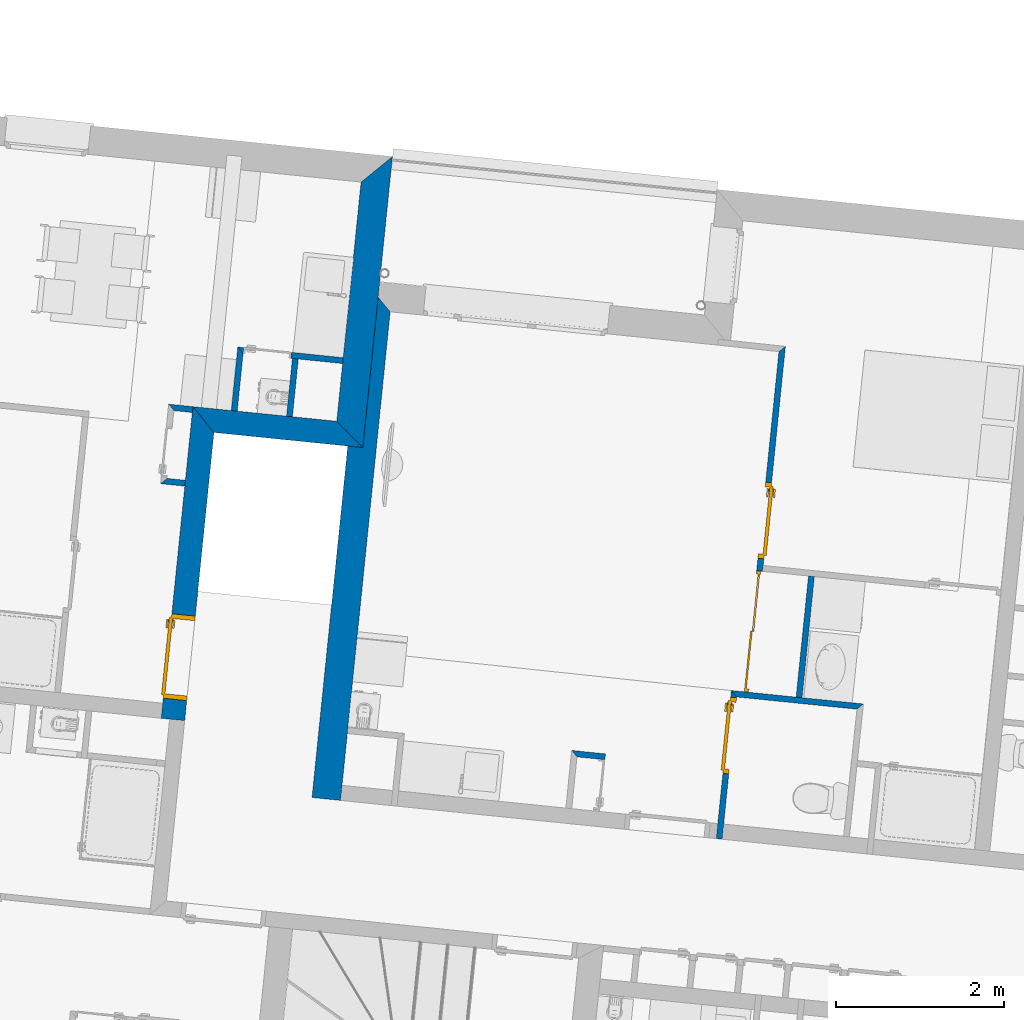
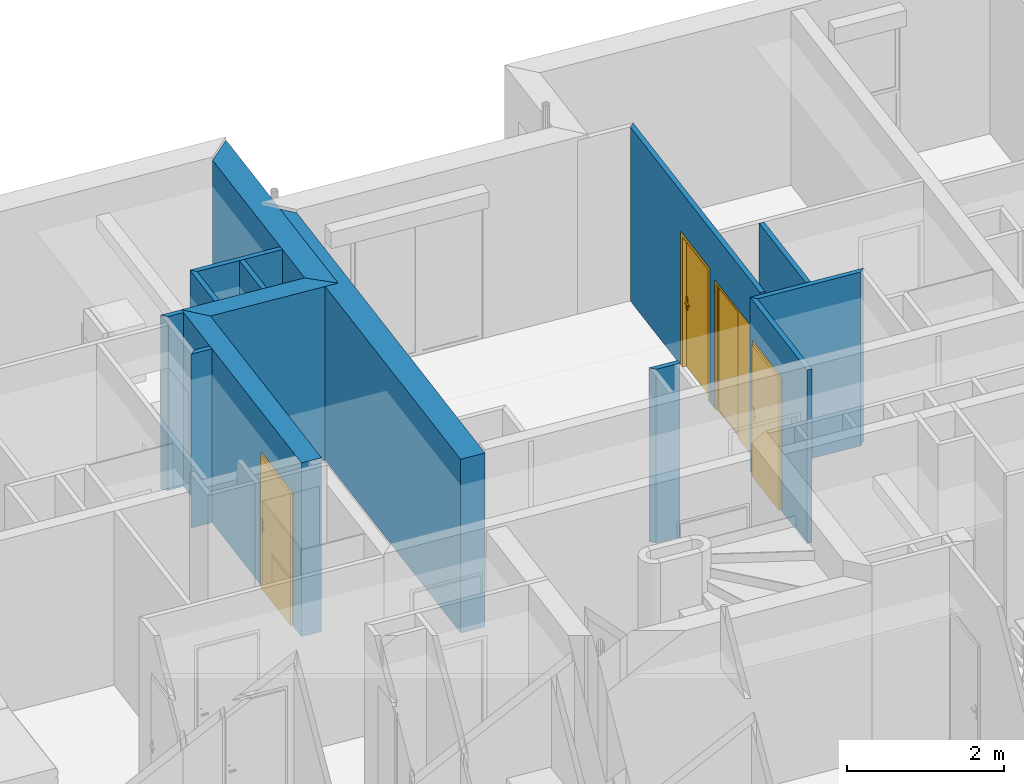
# One storey, part 65 of 164: 14 walls, 4 doors, 5 openings.
"""IFC2X3 building model written with IfcOpenShell, lengths in millimetres."""

from ifc_helpers import new_model, entity, si_unit, converted_unit, derived_unit, money_unit, direction, frame, origin_with_axes, origin_2d_with_axis, place, context, subcontext, project, spatial, polyline, rectangle, outline, extrude, open_shell, faceted_brep, surface_model, source, transform, mapped, material, layer, layer_set, layer_usage, type_object, element, fill, save


model = new_model("IFC2X3")

# Units and contexts
model_context = context("Model", 3, precision=0.01, world=origin_with_axes(), true_north=direction((0.0, 1.0)))
body_context = subcontext(model_context, "Body", "Model", "MODEL_VIEW")
ifc_project = project(units=[si_unit("LENGTHUNIT", "METRE", prefix="MILLI"), si_unit("AREAUNIT", "SQUARE_METRE"), si_unit("VOLUMEUNIT", "CUBIC_METRE"), converted_unit("PLANEANGLEUNIT", "DEGREE", entity("IfcPlaneAngleMeasure", 0.0174532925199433), si_unit("PLANEANGLEUNIT", "RADIAN"), dimensions=[0, 0, 0, 0, 0, 0, 0]), money_unit("USD"), converted_unit("TIMEUNIT", "Year", entity("IfcTimeMeasure", 31557600.0), si_unit("TIMEUNIT", "SECOND"), dimensions=[0, 0, 1, 0, 0, 0, 0]), si_unit("MASSUNIT", "GRAM", prefix="KILO"), si_unit("THERMODYNAMICTEMPERATUREUNIT", "DEGREE_CELSIUS"), si_unit("LUMINOUSINTENSITYUNIT", "LUMEN"), si_unit("ENERGYUNIT", "JOULE", prefix="MEGA"), derived_unit("THERMALCONDUCTANCEUNIT", [(si_unit("POWERUNIT", "WATT"), 1), (si_unit("LENGTHUNIT", "METRE"), -1), (si_unit("THERMODYNAMICTEMPERATUREUNIT", "KELVIN"), -1)]), derived_unit("SPECIFICHEATCAPACITYUNIT", [(si_unit("ENERGYUNIT", "JOULE"), 1), (si_unit("MASSUNIT", "GRAM", prefix="KILO"), -1), (si_unit("THERMODYNAMICTEMPERATUREUNIT", "KELVIN"), -1)]), derived_unit("MASSDENSITYUNIT", [(si_unit("MASSUNIT", "GRAM", prefix="KILO"), 1), (si_unit("VOLUMEUNIT", "CUBIC_METRE"), -1)])], contexts=[model_context])

# Site, building, storey
site_placement = place(None, origin_with_axes())
site = spatial("IfcSite", under=ifc_project, at=site_placement, Name="Site", CompositionType="ELEMENT")
building_placement = place(site_placement, origin_with_axes())
building = spatial("IfcBuilding", under=site, at=building_placement, Name="Bâtiment", CompositionType="ELEMENT")
storey_placement = place(building_placement, frame((0.0, 0.0, 5750.0), z_axis=(0.0, 0.0, 1.0), x_axis=(1.0, 0.0, 0.0)))
storey = spatial("IfcBuildingStorey", under=building, at=storey_placement, Name="Etage1", CompositionType="ELEMENT", Elevation=5750.0)

# Walls
ifc_material_1 = material(Name="Hachure solide 268963992")
ifc_layer_1 = layer(ifc_material_1, 70.0, ventilated="UNKNOWN")
ifc_layer_set_1 = layer_set([ifc_layer_1], Name="Cloison 70 0826278243")
ifc_layer_usage_1 = layer_usage(ifc_layer_set_1, "AXIS2", "NEGATIVE", 0.0)
wall_type_1 = type_object("IfcWallType", Name="Cloison 70 0826278243 70", PredefinedType="NOTDEFINED")
wall_1_placement = place(storey_placement, frame((2229040.57666053, -612021.5629488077, 0.0), z_axis=(0.0, 0.0, 1.0), x_axis=(-0.9949300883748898, 0.1005689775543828, 0.0)))
element("IfcWallStandardCase", 1, at=wall_1_placement, inside=storey, type_object=wall_type_1, material=ifc_layer_usage_1, Name="Mur-153", context=body_context, shape_type="SweptSolid", body=[
    extrude(outline(polyline([(0.0, -70.00000000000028), (404.5342167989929, -70.00000000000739), (334.5342167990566, 0.0), (0.0, 0.0), (0.0, -70.00000000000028)])), origin_with_axes(), (0.0, 0.0, 1.0), 2700.0),
])
ifc_layer_usage_2 = layer_usage(ifc_layer_set_1, "AXIS2", "NEGATIVE", 70.0)
wall_2_placement = place(storey_placement, frame((2224673.84594677, -607112.2829584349, 0.0), z_axis=(0.0, 0.0, 1.0), x_axis=(-0.1011032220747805, -0.9948759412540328, 0.0)))
element("IfcWallStandardCase", 2, at=wall_2_placement, inside=storey, type_object=wall_type_1, material=ifc_layer_usage_2, Name="Mur-149", context=body_context, shape_type="SweptSolid", body=[
    extrude(outline(polyline([(4.91690599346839e-06, 0.0), (760.3379466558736, 0.0), (760.337946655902, 70.00000000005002), (70.00000491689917, 70.00000000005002), (4.91690599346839e-06, 0.0)])), origin_with_axes(), (0.0, 0.0, 1.0), 2700.0),
])
ifc_layer_usage_3 = layer_usage(ifc_layer_set_1, "AXIS2", "NEGATIVE", 70.0)
wall_3_placement = place(storey_placement, frame((2225330.464041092, -607179.0110872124, 0.0), z_axis=(0.0, 0.0, 1.0), x_axis=(-0.1011032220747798, -0.9948759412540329, 0.0)))
element("IfcWallStandardCase", 3, at=wall_3_placement, inside=storey, type_object=wall_type_1, material=ifc_layer_usage_3, Name="Mur-149", context=body_context, shape_type="SweptSolid", body=[
    extrude(outline(polyline([(69.99999999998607, 0.0), (760.3379417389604, 0.0), (760.3379417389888, 70.00000000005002), (70.0000000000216, 70.00000000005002), (69.99999999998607, 0.0)])), origin_with_axes(), (0.0, 0.0, 1.0), 2700.0),
])

# Wall, opening
ifc_layer_usage_4 = layer_usage(ifc_layer_set_1, "AXIS2", "NEGATIVE", 70.0)
wall_4_placement = place(storey_placement, frame((2226265.983473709, -607274.0822664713, 0.0), z_axis=(0.0, 0.0, 1.0), x_axis=(-0.9948759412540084, 0.1011032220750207, 0.0)))
wall_4 = element("IfcWallStandardCase", 4, at=wall_4_placement, inside=storey, type_object=wall_type_1, material=ifc_layer_usage_4, Name="Mur-149", context=body_context, shape_type="SweptSolid", body=[
    extrude(outline(polyline([(339.9999999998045, 0.0), (1600.337752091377, 0.0), (1530.337752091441, 69.99999999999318), (340.0000069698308, 70.00000000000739), (339.9999999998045, 0.0)])), origin_with_axes(), (0.0, 0.0, 1.0), 2700.0),
])
opening_1_placement = place(wall_4_placement, frame((1245.337752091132, 0.0, 0.0), z_axis=(0.0, 0.0, 1.0), x_axis=(1.0, 0.0, 0.0)))
element("IfcOpeningElement", 5, at=opening_1_placement, cuts=wall_4, Name="Por-274", context=body_context, shape_type="SweptSolid", body=[
    extrude(rectangle(XDim=570.0, YDim=2050.0, at=origin_2d_with_axis()), frame((1.13686837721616e-10, 69.99999999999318, 1025.0), z_axis=(0.0, -1.0, 0.0), x_axis=(-1.0, 0.0, 0.0)), (0.0, 0.0, 1.0), 140.0),
])

# Walls
ifc_layer_usage_5 = layer_usage(ifc_layer_set_1, "AXIS2", "POSITIVE", 0.0)
wall_5_placement = place(storey_placement, frame((2231462.019362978, -609836.3801337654, 0.0), z_axis=(0.0, 0.0, 1.0), x_axis=(-0.101387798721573, -0.9948469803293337, 0.0)))
element("IfcWallStandardCase", 6, at=wall_5_placement, inside=storey, type_object=wall_type_1, material=ifc_layer_usage_5, Name="Mur-148", context=body_context, shape_type="SweptSolid", body=[
    extrude(outline(polyline([(0.0, 0.0), (1448.227513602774, 0.0), (1448.213263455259, 70.00000000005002), (-0.02002325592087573, 70.00000000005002), (0.0, 0.0)])), origin_with_axes(), (0.0, 0.0, 1.0), 2700.0),
])
ifc_layer_usage_6 = layer_usage(ifc_layer_set_1, "AXIS2", "NEGATIVE", 70.0)
wall_6_placement = place(storey_placement, frame((2224329.23579369, -608726.2968086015, 0.0), z_axis=(0.0, 0.0, 1.0), x_axis=(-0.9948681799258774, 0.1011795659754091, 0.0)))
element("IfcWallStandardCase", 7, at=wall_6_placement, inside=storey, type_object=wall_type_1, material=ifc_layer_usage_6, Name="Mur-149", context=body_context, shape_type="SweptSolid", body=[
    extrude(outline(polyline([(280.0000008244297, 0.0), (500.0677020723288, 0.0), (570.0698433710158, 69.99999999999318), (279.994629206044, 70.00000000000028), (280.0000008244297, 0.0)])), origin_with_axes(), (0.0, 0.0, 1.0), 2700.0),
])

# Wall, openings, doors
ifc_layer_usage_7 = layer_usage(ifc_layer_set_1, "AXIS2", "POSITIVE", 0.0)
wall_7_placement = place(storey_placement, frame((2231110.593327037, -607167.5599495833, 0.0), z_axis=(0.0, 0.0, 1.0), x_axis=(-0.1011878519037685, -0.9948673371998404, 0.0)))
wall_7 = element("IfcWallStandardCase", 8, at=wall_7_placement, inside=storey, type_object=wall_type_1, material=ifc_layer_usage_7, Name="Mur-148", context=body_context, shape_type="SweptSolid", body=[
    extrude(outline(polyline([(0.0, 0.0), (4027.787383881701, -1.13686837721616e-10), (4027.787383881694, 70.00000000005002), (-69.63631272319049, 70.00000000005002), (0.0, 0.0)])), origin_with_axes(), (0.0, 0.0, 1.0), 2700.0),
])
opening_2_placement = place(wall_7_placement, frame((2015.583415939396, 1.13686837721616e-10, 0.0), z_axis=(0.0, 0.0, 1.0), x_axis=(1.0, 0.0, 0.0)))
opening_2 = element("IfcOpeningElement", 9, at=opening_2_placement, cuts=wall_7, Name="Por-275", context=body_context, shape_type="SweptSolid", body=[
    extrude(rectangle(XDim=910.0, YDim=2080.0, at=origin_2d_with_axis()), frame((0.0, -70.00000000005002, 1040.0), z_axis=(0.0, 1.0, 0.0), x_axis=(1.0, 0.0, 0.0)), (0.0, 0.0, 1.0), 140.0),
])
opening_3_placement = place(wall_7_placement, frame((3343.763281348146, 1.13686837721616e-10, 0.0), z_axis=(0.0, 0.0, 1.0), x_axis=(1.0, 0.0, 0.0)))
opening_3 = element("IfcOpeningElement", 10, at=opening_3_placement, cuts=wall_7, Name="Por-254", context=body_context, shape_type="SweptSolid", body=[
    extrude(rectangle(XDim=1448.048205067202, YDim=2000.0, at=origin_2d_with_axis()), frame((0.0, 0.0, 1000.0), z_axis=(0.0, 1.0, 0.0), x_axis=(1.0, 0.0, 0.0)), (0.0, 0.0, -1.0), 70.0),
    extrude(rectangle(XDim=1448.048205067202, YDim=2000.0, at=origin_2d_with_axis()), frame((0.0, 0.0, 1000.0), z_axis=(0.0, -1.0, 0.0), x_axis=(1.0, 0.0, 0.0)), (0.0, 0.0, -1.0), 70.0),
])
door_style_1 = type_object("IfcDoorStyle", Name="Porte_1v", ConstructionType="NOTDEFINED", OperationType="NOTDEFINED", ParameterTakesPrecedence=False, Sizeable=False)
shared_shape_1 = source(origin_with_axes(), body_context, "Body", "Brep", [
    faceted_brep([(455.0, 0.0, 0.0), (415.0000000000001, 0.0, 0.0), (415.0000000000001, 0.0, 2040.0), (-415.0000000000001, 0.0, 2040.0), (-415.0000000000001, 0.0, 0.0), (-455.0, 0.0, 0.0), (-455.0, 0.0, 2080.0), (455.0, 0.0, 2080.0), (455.0, -70.0, 0.0), (400.0, -70.0, 0.0), (400.0, -15.0, 0.0), (415.0000000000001, -15.0, 0.0), (415.0000000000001, -15.0, 2040.0), (-415.0000000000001, -15.0, 2040.0), (-415.0000000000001, -15.0, 0.0), (-400.0, -15.0, 0.0), (-400.0, -70.0, 0.0), (-455.0, -70.0, 0.0), (-455.0, -70.0, 2080.0), (455.0, -70.0, 2080.0), (-400.0, -70.0, 2025.0), (400.0, -70.0, 2025.0), (400.0, -15.0, 2025.0), (-400.0, -15.0, 2025.0)], [[[0, 1, 2, 3, 4, 5, 6, 7]], [[0, 8, 9, 10, 11, 1]], [[1, 11, 12, 2]], [[2, 12, 13, 3]], [[3, 13, 14, 4]], [[5, 4, 14, 15, 16, 17]], [[18, 6, 5, 17]], [[19, 7, 6, 18]], [[8, 0, 7, 19]], [[9, 8, 19, 18, 17, 16, 20, 21]], [[10, 9, 21, 22]], [[11, 10, 22, 23, 15, 14, 13, 12]], [[23, 20, 16, 15]], [[22, 21, 20, 23]]]),
    faceted_brep([(-350.0000000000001, -15.0, 900.0), (-390.0, -15.0, 900.0), (-390.0, -15.0, 1100.0), (-350.0000000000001, -15.0, 1100.0), (-350.0000000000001, -25.0, 900.0), (-390.0, -25.0, 900.0), (-390.0, -25.0, 1100.0), (-350.0000000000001, -25.0, 1100.0)], [[[0, 1, 2, 3]], [[1, 0, 4, 5]], [[2, 1, 5, 6]], [[3, 2, 6, 7]], [[0, 3, 7, 4]], [[5, 4, 7, 6]]]),
    faceted_brep([(-280.0, -25.0, 1000.0), (-380.0, -25.0, 1000.0), (-380.0, -25.0, 1020.0), (-280.0, -25.0, 1020.0), (-280.0, -45.0, 1000.0), (-380.0, -45.0, 1000.0), (-380.0, -45.0, 1020.0), (-280.0, -45.0, 1020.0)], [[[0, 1, 2, 3]], [[1, 0, 4, 5]], [[2, 1, 5, 6]], [[3, 2, 6, 7]], [[0, 3, 7, 4]], [[5, 4, 7, 6]]]),
    faceted_brep([(-350.0000000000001, 35.0, 900.0), (-390.0, 35.0, 900.0), (-390.0, 35.0, 1100.0), (-350.0000000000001, 35.0, 1100.0), (-350.0000000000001, 25.0, 900.0), (-390.0, 25.0, 900.0), (-390.0, 25.0, 1100.0), (-350.0000000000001, 25.0, 1100.0)], [[[0, 1, 2, 3]], [[1, 0, 4, 5]], [[2, 1, 5, 6]], [[3, 2, 6, 7]], [[0, 3, 7, 4]], [[5, 4, 7, 6]]]),
    faceted_brep([(-280.0, 55.00000000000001, 1000.0), (-380.0, 55.00000000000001, 1000.0), (-380.0, 55.00000000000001, 1020.0), (-280.0, 55.00000000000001, 1020.0), (-280.0, 35.0, 1000.0), (-380.0, 35.0, 1000.0), (-380.0, 35.0, 1020.0), (-280.0, 35.0, 1020.0)], [[[0, 1, 2, 3]], [[1, 0, 4, 5]], [[2, 1, 5, 6]], [[3, 2, 6, 7]], [[0, 3, 7, 4]], [[5, 4, 7, 6]]]),
    faceted_brep([(-415.0000000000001, 25.0, 0.0), (415.0000000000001, 25.0, 0.0), (415.0000000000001, -15.0, 0.0), (-415.0000000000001, -15.0, 0.0), (-415.0000000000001, 25.0, 2040.0), (415.0000000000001, 25.0, 2040.0), (415.0000000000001, -15.0, 2040.0), (-415.0000000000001, -15.0, 2040.0)], [[[0, 1, 2, 3]], [[0, 4, 5, 1]], [[1, 5, 6, 2]], [[3, 2, 6, 7]], [[4, 0, 3, 7]], [[5, 4, 7, 6]]]),
])
door_1_placement = place(opening_2_placement, frame((-415.0000000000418, 1.13686837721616e-10, 0.0), z_axis=(0.0, 0.0, 1.0), x_axis=(1.0, 0.0, 0.0)))
door_1 = element("IfcDoor", 11, at=door_1_placement, inside=storey, type_object=door_style_1, Name="Por-275", OverallHeight=2040.0, OverallWidth=830.0, context=body_context, shape_type="MappedRepresentation", body=[
    mapped(shared_shape_1, transform((414.999999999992, 70.00000000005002, 0.0))),
])
fill(opening_2, door_1)
door_style_2 = type_object("IfcDoorStyle", ConstructionType="NOTDEFINED", OperationType="NOTDEFINED", ParameterTakesPrecedence=False, Sizeable=False)
shared_shape_2 = source(origin_with_axes(), body_context, "Body", "SurfaceModel", [
    faceted_brep([(-724.0241025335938, 0.0, 0.0), (-724.0241025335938, 0.0, 2000.0), (724.0241025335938, 0.0, 2000.0), (724.0241025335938, 0.0, 0.0), (684.0241025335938, 0.0, 0.0), (684.0241025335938, 0.0, 1960.0), (-684.0241025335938, 0.0, 1960.0), (-684.0241025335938, 0.0, 0.0), (-724.0241025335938, -50.0, 0.0), (-724.0241025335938, -50.0, 2000.0), (724.0241025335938, -50.0, 2000.0), (724.0241025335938, -50.0, 0.0), (684.0241025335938, -50.0, 0.0), (684.0241025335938, -10.0, 0.0), (684.0241025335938, -10.0, 1960.0), (-684.0241025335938, -10.0, 1960.0), (-684.0241025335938, -10.0, 0.0), (-684.0241025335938, -50.0, 0.0), (-684.0241025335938, -50.0, 1960.0), (684.0241025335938, -50.0, 1960.0)], [[[0, 1, 2, 3, 4, 5, 6, 7]], [[8, 9, 1, 0]], [[9, 10, 2, 1]], [[10, 11, 3, 2]], [[3, 11, 12, 13, 4]], [[5, 4, 13, 14]], [[6, 5, 14, 15]], [[7, 6, 15, 16]], [[0, 7, 16, 17, 8]], [[17, 18, 19, 12, 11, 10, 9, 8]], [[14, 13, 12, 19]], [[15, 14, 19, 18]], [[16, 15, 18, 17]]]),
    faceted_brep([(684.0241025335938, -20.0, 0.0), (684.0241025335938, -40.0, 0.0), (0.0, -40.0, 0.0), (0.0, -20.0, 0.0), (684.0241025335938, -20.0, 1960.0), (684.0241025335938, -40.0, 1960.0), (0.0, -40.0, 1960.0), (664.0241025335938, -40.0, 20.0), (20.00000000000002, -40.0, 20.0), (20.00000000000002, -40.0, 1940.0), (664.0241025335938, -40.0, 1940.0), (0.0, -20.0, 1960.0), (664.0241025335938, -20.0, 20.0), (664.0241025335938, -20.0, 1940.0), (20.00000000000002, -20.0, 1940.0), (20.00000000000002, -20.0, 20.0)], [[[0, 1, 2, 3]], [[4, 5, 1, 0]], [[1, 5, 6, 2], [7, 8, 9, 10]], [[3, 2, 6, 11]], [[0, 3, 11, 4], [12, 13, 14, 15]], [[11, 6, 5, 4]], [[15, 8, 7, 12]], [[14, 9, 8, 15]], [[13, 10, 9, 14]], [[12, 7, 10, 13]]]),
    surface_model("IfcShellBasedSurfaceModel", [(664.0241025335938, -30.0, 20.0), (664.0241025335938, -30.0, 1940.0), (20.00000000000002, -30.0, 1940.0), (20.00000000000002, -30.0, 20.0)], [open_shell([[[0, 1, 2, 3]]])]),
    faceted_brep([(5.000000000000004, 0.0, 0.0), (5.000000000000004, -20.0, 0.0), (-684.0241025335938, -20.0, 0.0), (-684.0241025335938, 0.0, 0.0), (5.000000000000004, 0.0, 1960.0), (5.000000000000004, -20.0, 1960.0), (-684.0241025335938, -20.0, 1960.0), (-684.0241025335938, 0.0, 1960.0)], [[[0, 1, 2, 3]], [[4, 5, 1, 0]], [[1, 5, 6, 2]], [[3, 2, 6, 7]], [[0, 3, 7, 4]], [[7, 6, 5, 4]]]),
])
door_2_placement = place(opening_3_placement, frame((724.0241025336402, -1.13686837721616e-10, 0.0), z_axis=(0.0, 0.0, 1.0), x_axis=(-1.0, 0.0, 0.0)))
door_2 = element("IfcDoor", 12, at=door_2_placement, inside=storey, type_object=door_style_2, Name="Por-254", OverallHeight=2000.0, OverallWidth=1448.05, context=body_context, shape_type="MappedRepresentation", body=[
    mapped(shared_shape_2, transform((724.0241025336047, 0.0, 0.0))),
])
fill(opening_3, door_2)

# Wall, opening, door
ifc_layer_usage_8 = layer_usage(ifc_layer_set_1, "AXIS2", "POSITIVE", 0.0)
wall_8_placement = place(storey_placement, frame((2230537.020882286, -611268.3608930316, 0.0), z_axis=(0.0, 0.0, 1.0), x_axis=(-0.101209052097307, -0.9948651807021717, 0.0)))
wall_8 = element("IfcWallStandardCase", 13, at=wall_8_placement, inside=storey, type_object=wall_type_1, material=ifc_layer_usage_8, Name="Mur-148", context=body_context, shape_type="SweptSolid", body=[
    extrude(outline(polyline([(-70.00000001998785, 0.0), (1700.277329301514, 1.13686837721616e-10), (1700.277329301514, 70.00000000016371), (-0.001673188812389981, 70.00000000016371), (-70.00000001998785, 0.0)])), origin_with_axes(), (0.0, 0.0, 1.0), 2700.0),
])
opening_4_placement = place(wall_8_placement, frame((464.8345143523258, -1.13686837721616e-10, 0.0), z_axis=(0.0, 0.0, 1.0), x_axis=(1.0, 0.0, 0.0)))
opening_4 = element("IfcOpeningElement", 14, at=opening_4_placement, cuts=wall_8, Name="Por-268", context=body_context, shape_type="SweptSolid", body=[
    extrude(rectangle(XDim=910.0, YDim=2080.0, at=origin_2d_with_axis()), frame((0.0, 70.00000000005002, 1040.0), z_axis=(0.0, 1.0, 0.0), x_axis=(1.0, 0.0, 0.0)), (0.0, 0.0, -1.0), 140.0),
])
shared_shape_3 = source(origin_with_axes(), body_context, "Body", "Brep", [
    faceted_brep([(-454.9999999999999, 0.0, 0.0), (-454.9999999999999, 0.0, 2080.0), (454.9999999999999, 0.0, 2080.0), (454.9999999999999, 0.0, 0.0), (415.0, 0.0, 0.0), (414.9999999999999, 0.0, 2040.0), (-414.9999999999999, 0.0, 2040.0), (-415.0, 0.0, 0.0), (-454.9999999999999, -70.0, 0.0), (-454.9999999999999, -70.0, 2080.0), (454.9999999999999, -70.0, 2080.0), (454.9999999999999, -70.0, 0.0), (399.9999999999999, -70.0, 0.0), (399.9999999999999, -15.0, 0.0), (415.0, -15.0, 0.0), (414.9999999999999, -15.0, 2040.0), (-414.9999999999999, -15.0, 2040.0), (-415.0, -15.0, 0.0), (-399.9999999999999, -15.0, 0.0), (-399.9999999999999, -70.0, 0.0), (-399.9999999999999, -70.0, 2025.0), (399.9999999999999, -70.0, 2025.0), (399.9999999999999, -15.0, 2025.0), (-399.9999999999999, -15.0, 2025.0)], [[[0, 1, 2, 3, 4, 5, 6, 7]], [[8, 9, 1, 0]], [[9, 10, 2, 1]], [[10, 11, 3, 2]], [[3, 11, 12, 13, 14, 4]], [[5, 4, 14, 15]], [[6, 5, 15, 16]], [[7, 6, 16, 17]], [[0, 7, 17, 18, 19, 8]], [[19, 20, 21, 12, 11, 10, 9, 8]], [[22, 13, 12, 21]], [[17, 16, 15, 14, 13, 22, 23, 18]], [[18, 23, 20, 19]], [[23, 22, 21, 20]]]),
    faceted_brep([(350.0, -15.0, 900.0), (350.0, -15.0, 1100.0), (389.9999999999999, -15.0, 1100.0), (389.9999999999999, -15.0, 900.0), (350.0, -25.0, 900.0), (350.0, -25.0, 1100.0), (389.9999999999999, -25.0, 1100.0), (389.9999999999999, -25.0, 900.0)], [[[0, 1, 2, 3]], [[0, 4, 5, 1]], [[1, 5, 6, 2]], [[2, 6, 7, 3]], [[3, 7, 4, 0]], [[7, 6, 5, 4]]]),
    faceted_brep([(279.9999999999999, -25.0, 1000.0), (279.9999999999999, -25.0, 1020.0), (379.9999999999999, -25.0, 1020.0), (379.9999999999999, -25.0, 1000.0), (279.9999999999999, -45.0, 1000.0), (279.9999999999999, -45.0, 1020.0), (379.9999999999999, -45.0, 1020.0), (379.9999999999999, -45.0, 1000.0)], [[[0, 1, 2, 3]], [[0, 4, 5, 1]], [[1, 5, 6, 2]], [[2, 6, 7, 3]], [[3, 7, 4, 0]], [[7, 6, 5, 4]]]),
    faceted_brep([(350.0, 35.0, 900.0), (350.0, 35.0, 1100.0), (389.9999999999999, 35.0, 1100.0), (389.9999999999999, 35.0, 900.0), (350.0, 25.0, 900.0), (350.0, 25.0, 1100.0), (389.9999999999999, 25.0, 1100.0), (389.9999999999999, 25.0, 900.0)], [[[0, 1, 2, 3]], [[0, 4, 5, 1]], [[1, 5, 6, 2]], [[2, 6, 7, 3]], [[3, 7, 4, 0]], [[7, 6, 5, 4]]]),
    faceted_brep([(279.9999999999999, 55.00000000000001, 1000.0), (279.9999999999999, 55.00000000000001, 1020.0), (379.9999999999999, 55.00000000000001, 1020.0), (379.9999999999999, 55.00000000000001, 1000.0), (279.9999999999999, 35.0, 1000.0), (279.9999999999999, 35.0, 1020.0), (379.9999999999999, 35.0, 1020.0), (379.9999999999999, 35.0, 1000.0)], [[[0, 1, 2, 3]], [[0, 4, 5, 1]], [[1, 5, 6, 2]], [[2, 6, 7, 3]], [[3, 7, 4, 0]], [[7, 6, 5, 4]]]),
    faceted_brep([(415.0, 25.0, 0.0), (415.0, -15.0, 0.0), (-415.0, -15.0, 0.0), (-415.0, 25.0, 0.0), (415.0, 25.0, 2040.0), (415.0, -15.0, 2040.0), (-415.0, -15.0, 2040.0), (-415.0, 25.0, 2040.0)], [[[0, 1, 2, 3]], [[4, 5, 1, 0]], [[1, 5, 6, 2]], [[3, 2, 6, 7]], [[0, 3, 7, 4]], [[7, 6, 5, 4]]]),
])
door_3_placement = place(opening_4_placement, frame((415.0000000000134, 1.13686837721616e-10, 0.0), z_axis=(0.0, 0.0, 1.0), x_axis=(-1.0, 0.0, 0.0)))
door_3 = element("IfcDoor", 15, at=door_3_placement, inside=storey, type_object=door_style_1, Name="Por-268", OverallHeight=2040.0, OverallWidth=830.0, context=body_context, shape_type="MappedRepresentation", body=[
    mapped(shared_shape_3, transform((414.9999999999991, 1.13686837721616e-10, 0.0))),
])
fill(opening_4, door_3)

# Walls
ifc_layer_usage_9 = layer_usage(ifc_layer_set_1, "AXIS2", "POSITIVE", 0.0)
wall_9_placement = place(storey_placement, frame((2230537.020882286, -611268.3608930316, 0.0), z_axis=(0.0, 0.0, 1.0), x_axis=(0.9948675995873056, -0.1011852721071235, 0.0)))
element("IfcWallStandardCase", 16, at=wall_9_placement, inside=storey, type_object=wall_type_1, material=ifc_layer_usage_9, Name="Mur-148", context=body_context, shape_type="SweptSolid", body=[
    extrude(outline(polyline([(70.00000001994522, 0.0), (1509.074684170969, 0.0), (1579.310351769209, 70.00000000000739), (0.001673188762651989, 70.00000000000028), (70.00000001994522, 0.0)])), origin_with_axes(), (0.0, 0.0, 1.0), 2700.0),
])
ifc_layer_usage_10 = layer_usage(ifc_layer_set_1, "AXIS2", "NEGATIVE", 70.0)
wall_10_placement = place(storey_placement, frame((2224141.594141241, -607822.4475885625, 0.0), z_axis=(0.0, 0.0, 1.0), x_axis=(-0.9947181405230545, 0.1026441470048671, 0.0)))
element("IfcWallStandardCase", 17, at=wall_10_placement, inside=storey, type_object=wall_type_1, material=ifc_layer_usage_10, Name="Mur-149", context=body_context, shape_type="SweptSolid", body=[
    extrude(outline(polyline([(0.0, 0.0), (291.9112986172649, 0.0), (221.8103098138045, 69.99999999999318), (0.0, 69.99999999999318), (0.0, 0.0)])), origin_with_axes(), (0.0, 0.0, 1.0), 2700.0),
])

# Wall, opening, door
ifc_material_2 = material(Name="Parpaing 312445824")
ifc_layer_2 = layer(ifc_material_2, 180.0, ventilated="UNKNOWN")
ifc_material_3 = material(Name="Isolant styromousse 301821074")
ifc_layer_3 = layer(ifc_material_3, 100.0, ventilated="UNKNOWN")
ifc_layer_set_2 = layer_set([ifc_layer_2, ifc_layer_3], Name="isol int 18+10 0018356637")
ifc_layer_usage_11 = layer_usage(ifc_layer_set_2, "AXIS2", "NEGATIVE", 0.0)
wall_type_2 = type_object("IfcWallType", Name="isol int 18+10 0018356637 280", PredefinedType="NOTDEFINED")
wall_11_placement = place(storey_placement, frame((2224389.922679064, -608129.1257098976, 0.0), z_axis=(0.0, 0.0, 1.0), x_axis=(-0.1011032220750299, -0.9948759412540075, 0.0)))
wall_11 = element("IfcWallStandardCase", 18, at=wall_11_placement, inside=storey, type_object=wall_type_2, material=ifc_layer_usage_11, Name="Mur-142", context=body_context, shape_type="SweptSolid", body=[
    extrude(outline(polyline([(-280.0000000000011, -280.0000000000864), (3445.255088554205, -280.0000000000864), (3445.255088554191, 0.0), (0.0, 0.0), (-280.0000000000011, -280.0000000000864)])), origin_with_axes(), (0.0, 0.0, 1.0), 2700.0),
])
opening_5_placement = place(wall_11_placement, frame((2700.957525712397, 1.13686837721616e-10, 0.0), z_axis=(0.0, 0.0, 1.0), x_axis=(1.0, 0.0, 0.0)))
opening_5 = element("IfcOpeningElement", 19, at=opening_5_placement, cuts=wall_11, Name="Por-279", context=body_context, shape_type="SweptSolid", body=[
    extrude(rectangle(XDim=1010.00001192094, YDim=2080.0, at=origin_2d_with_axis()), frame((5.960451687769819e-06, 279.9999999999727, 1040.0), z_axis=(0.0, 1.0, 0.0), x_axis=(1.0, 0.0, 0.0)), (0.0, 0.0, -1.0), 560.0),
])
shared_shape_4 = source(origin_with_axes(), body_context, "Body", "Brep", [
    faceted_brep([(-505.0, 0.0, 0.0), (-505.0, 0.0, 2080.0), (505.0, 0.0, 2080.0), (505.0, 0.0, 0.0), (465.0, 0.0, 0.0), (464.9999999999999, 0.0, 2040.0), (-464.9999999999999, 0.0, 2040.0), (-465.0, 0.0, 0.0), (-505.0, -280.0, 0.0), (-505.0, -280.0, 2080.0), (505.0, -280.0, 2080.0), (505.0, -280.0, 0.0), (450.0, -280.0, 0.0), (450.0, -15.0, 0.0), (465.0, -15.0, 0.0), (464.9999999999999, -15.0, 2040.0), (-464.9999999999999, -15.0, 2040.0), (-465.0, -15.0, 0.0), (-450.0, -15.0, 0.0), (-450.0, -280.0, 0.0), (-450.0, -280.0, 2025.0), (450.0, -280.0, 2025.0), (450.0, -15.0, 2025.0), (-450.0, -15.0, 2025.0)], [[[0, 1, 2, 3, 4, 5, 6, 7]], [[8, 9, 1, 0]], [[9, 10, 2, 1]], [[10, 11, 3, 2]], [[3, 11, 12, 13, 14, 4]], [[5, 4, 14, 15]], [[6, 5, 15, 16]], [[7, 6, 16, 17]], [[0, 7, 17, 18, 19, 8]], [[19, 20, 21, 12, 11, 10, 9, 8]], [[22, 13, 12, 21]], [[17, 16, 15, 14, 13, 22, 23, 18]], [[18, 23, 20, 19]], [[23, 22, 21, 20]]]),
    faceted_brep([(400.0, -15.0, 900.0), (400.0, -15.0, 1100.0), (440.0, -15.0, 1100.0), (440.0, -15.0, 900.0), (400.0, -25.0, 900.0), (400.0, -25.0, 1100.0), (440.0, -25.0, 1100.0), (440.0, -25.0, 900.0)], [[[0, 1, 2, 3]], [[0, 4, 5, 1]], [[1, 5, 6, 2]], [[2, 6, 7, 3]], [[3, 7, 4, 0]], [[7, 6, 5, 4]]]),
    faceted_brep([(329.9999999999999, -25.0, 1000.0), (329.9999999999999, -25.0, 1020.0), (430.0, -25.0, 1020.0), (430.0, -25.0, 1000.0), (329.9999999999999, -45.0, 1000.0), (329.9999999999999, -45.0, 1020.0), (430.0, -45.0, 1020.0), (430.0, -45.0, 1000.0)], [[[0, 1, 2, 3]], [[0, 4, 5, 1]], [[1, 5, 6, 2]], [[2, 6, 7, 3]], [[3, 7, 4, 0]], [[7, 6, 5, 4]]]),
    faceted_brep([(400.0, 35.0, 900.0), (400.0, 35.0, 1100.0), (440.0, 35.0, 1100.0), (440.0, 35.0, 900.0), (400.0, 25.0, 900.0), (400.0, 25.0, 1100.0), (440.0, 25.0, 1100.0), (440.0, 25.0, 900.0)], [[[0, 1, 2, 3]], [[0, 4, 5, 1]], [[1, 5, 6, 2]], [[2, 6, 7, 3]], [[3, 7, 4, 0]], [[7, 6, 5, 4]]]),
    faceted_brep([(329.9999999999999, 55.00000000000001, 1000.0), (329.9999999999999, 55.00000000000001, 1020.0), (430.0, 55.00000000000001, 1020.0), (430.0, 55.00000000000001, 1000.0), (329.9999999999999, 35.0, 1000.0), (329.9999999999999, 35.0, 1020.0), (430.0, 35.0, 1020.0), (430.0, 35.0, 1000.0)], [[[0, 1, 2, 3]], [[0, 4, 5, 1]], [[1, 5, 6, 2]], [[2, 6, 7, 3]], [[3, 7, 4, 0]], [[7, 6, 5, 4]]]),
    faceted_brep([(465.0, 25.0, 0.0), (465.0, -15.0, 0.0), (-465.0, -15.0, 0.0), (-465.0, 25.0, 0.0), (465.0, 25.0, 2040.0), (465.0, -15.0, 2040.0), (-465.0, -15.0, 2040.0), (-465.0, 25.0, 2040.0)], [[[0, 1, 2, 3]], [[4, 5, 1, 0]], [[1, 5, 6, 2]], [[3, 2, 6, 7]], [[0, 3, 7, 4]], [[7, 6, 5, 4]]]),
])
door_4_placement = place(opening_5_placement, frame((465.0000000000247, 0.0, 0.0), z_axis=(0.0, 0.0, 1.0), x_axis=(-1.0, 0.0, 0.0)))
door_4 = element("IfcDoor", 20, at=door_4_placement, inside=storey, type_object=door_style_1, Name="Por-279", OverallHeight=2040.0, OverallWidth=930.0, context=body_context, shape_type="MappedRepresentation", body=[
    mapped(shared_shape_4, transform((464.9999999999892, 279.9999999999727, 0.0))),
])
fill(opening_5, door_4)

# Walls
ifc_layer_usage_12 = layer_usage(ifc_layer_set_2, "AXIS2", "POSITIVE", 0.0)
wall_12_placement = place(storey_placement, frame((2224389.922679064, -608129.1257098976, 0.0), z_axis=(0.0, 0.0, 1.0), x_axis=(0.9948759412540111, -0.1011032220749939, 0.0)))
element("IfcWallStandardCase", 21, at=wall_12_placement, inside=storey, type_object=wall_type_2, material=ifc_layer_usage_12, Name="Mur-142", context=body_context, shape_type="SweptSolid", body=[
    extrude(outline(polyline([(1.13686837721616e-10, 0.0), (1779.999998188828, 0.0), (1440.000026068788, 280.0000000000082), (-280.0000000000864, 280.0000000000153), (1.13686837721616e-10, 0.0)])), origin_with_axes(), (0.0, 0.0, 1.0), 2700.0),
])
ifc_layer_4 = layer(ifc_material_2, 180.0, ventilated="UNKNOWN")
ifc_layer_5 = layer(ifc_material_3, 160.0, ventilated="UNKNOWN")
ifc_layer_set_3 = layer_set([ifc_layer_4, ifc_layer_5], Name="isol int 18+16 0018356637")
ifc_layer_usage_13 = layer_usage(ifc_layer_set_3, "AXIS2", "POSITIVE", 0.0)
wall_type_3 = type_object("IfcWallType", Name="isol int 18+16 0018356637 340", PredefinedType="NOTDEFINED")
wall_13_placement = place(storey_placement, frame((2226181.9085584, -606321.0365645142, 0.0), z_axis=(0.0, 0.0, 1.0), x_axis=(-0.1011032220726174, -0.9948759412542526, 0.0)))
element("IfcWallStandardCase", 22, at=wall_13_placement, inside=storey, type_object=wall_type_3, material=ifc_layer_usage_13, Name="Mur-142", context=body_context, shape_type="SweptSolid", body=[
    extrude(outline(polyline([(0.0, 0.0), (6181.914988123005, 1.13686837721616e-10), (6181.914988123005, 340.0000000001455), (340.0000000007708, 340.0000000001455), (0.0, 0.0)])), origin_with_axes(), (0.0, 0.0, 1.0), 2700.0),
])
ifc_layer_usage_14 = layer_usage(ifc_layer_set_3, "AXIS2", "NEGATIVE", 0.0)
wall_14_placement = place(storey_placement, frame((2226512.64140385, -604846.9212674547, 0.0), z_axis=(0.0, 0.0, 1.0), x_axis=(-0.1011033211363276, -0.9948759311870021, 0.0)))
element("IfcWallStandardCase", 23, at=wall_14_placement, inside=storey, type_object=wall_type_3, material=ifc_layer_usage_14, Name="Mur-142", context=body_context, shape_type="SweptSolid", body=[
    extrude(outline(polyline([(340.0000338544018, -340.0000000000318), (3199.99997055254, -340.0000000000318), (3479.999936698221, -1.13686837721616e-10), (0.0, 0.0), (340.0000338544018, -340.0000000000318)])), origin_with_axes(), (0.0, 0.0, 1.0), 2700.0),
])

save(model, "model.ifc")
